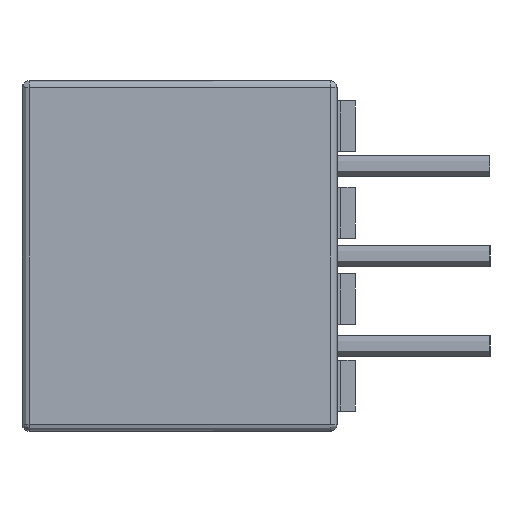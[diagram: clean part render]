
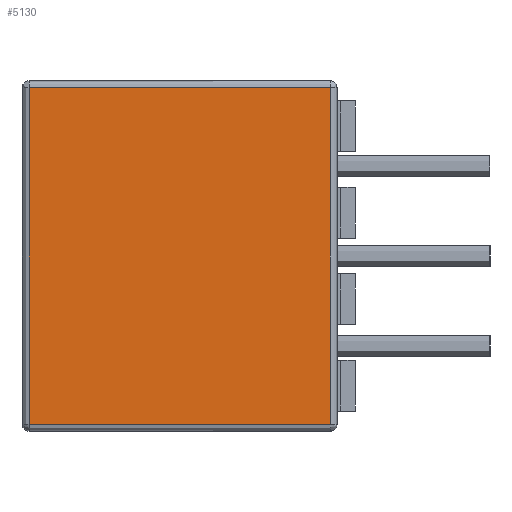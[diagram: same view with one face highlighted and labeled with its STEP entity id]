
A CAD part, left-side view. The second image highlights one B-rep face of the part: STEP entity #5130.
In plain terms, the highlighted planar face has unit normal (-1, 0, 0).
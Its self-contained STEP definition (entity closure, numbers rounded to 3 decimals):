
#5114 = EDGE_CURVE ( 'NONE', #5196, #5134, #23199, .T. ) ;
#5130 = ADVANCED_FACE ( 'NONE', ( #23231 ), #23230, .T. ) ;
#5131 = EDGE_LOOP ( 'NONE', ( #5132, #5191, #5194, #5197 ) ) ;
#5132 = ORIENTED_EDGE ( 'NONE', *, *, #5133, .T. ) ;
#5133 = EDGE_CURVE ( 'NONE', #5134, #5135, #23228, .T. ) ;
#5134 = VERTEX_POINT ( 'NONE', #23221 ) ;
#5135 = VERTEX_POINT ( 'NONE', #23220 ) ;
#5191 = ORIENTED_EDGE ( 'NONE', *, *, #5192, .T. ) ;
#5192 = EDGE_CURVE ( 'NONE', #5135, #5193, #23374, .T. ) ;
#5193 = VERTEX_POINT ( 'NONE', #23370 ) ;
#5194 = ORIENTED_EDGE ( 'NONE', *, *, #5195, .T. ) ;
#5195 = EDGE_CURVE ( 'NONE', #5193, #5196, #23369, .T. ) ;
#5196 = VERTEX_POINT ( 'NONE', #23365 ) ;
#5197 = ORIENTED_EDGE ( 'NONE', *, *, #5114, .T. ) ;
#23193 = DIRECTION ( 'NONE',  ( 0., 0., -1. ) ) ;
#23194 = VECTOR ( 'NONE', #23193, 1000. ) ;
#23195 = CARTESIAN_POINT ( 'NONE',  ( -14.497, 8.69, -4.947 ) ) ;
#23199 = LINE ( 'NONE', #23195, #23194 ) ;
#23220 = CARTESIAN_POINT ( 'NONE',  ( -14.5, 0.2, -4.75 ) ) ;
#23221 = CARTESIAN_POINT ( 'NONE',  ( -14.497, 8.69, -4.747 ) ) ;
#23222 = DIRECTION ( 'NONE',  ( 0., -1., 0. ) ) ;
#23223 = VECTOR ( 'NONE', #23222, 1000. ) ;
#23224 = CARTESIAN_POINT ( 'NONE',  ( -14.5, 0.004, -4.75 ) ) ;
#23225 = DIRECTION ( 'NONE',  ( 0., -1., 0. ) ) ;
#23226 = DIRECTION ( 'NONE',  ( -1., 0., 0. ) ) ;
#23227 = CARTESIAN_POINT ( 'NONE',  ( -14.5, 0., 4.95 ) ) ;
#23228 = LINE ( 'NONE', #23224, #23223 ) ;
#23229 = AXIS2_PLACEMENT_3D ( 'NONE', #23227, #23226, #23225 ) ;
#23230 = PLANE ( 'NONE',  #23229 ) ;
#23231 = FACE_OUTER_BOUND ( 'NONE', #5131, .T. ) ;
#23365 = CARTESIAN_POINT ( 'NONE',  ( -14.497, 8.69, 4.747 ) ) ;
#23366 = DIRECTION ( 'NONE',  ( 0., 1., 0. ) ) ;
#23367 = VECTOR ( 'NONE', #23366, 1000. ) ;
#23368 = CARTESIAN_POINT ( 'NONE',  ( -14.5, 0., 4.75 ) ) ;
#23369 = LINE ( 'NONE', #23368, #23367 ) ;
#23370 = CARTESIAN_POINT ( 'NONE',  ( -14.5, 0.2, 4.75 ) ) ;
#23371 = DIRECTION ( 'NONE',  ( 0., 0., 1. ) ) ;
#23372 = VECTOR ( 'NONE', #23371, 1000. ) ;
#23373 = CARTESIAN_POINT ( 'NONE',  ( -14.5, 0.2, 4.95 ) ) ;
#23374 = LINE ( 'NONE', #23373, #23372 ) ;
